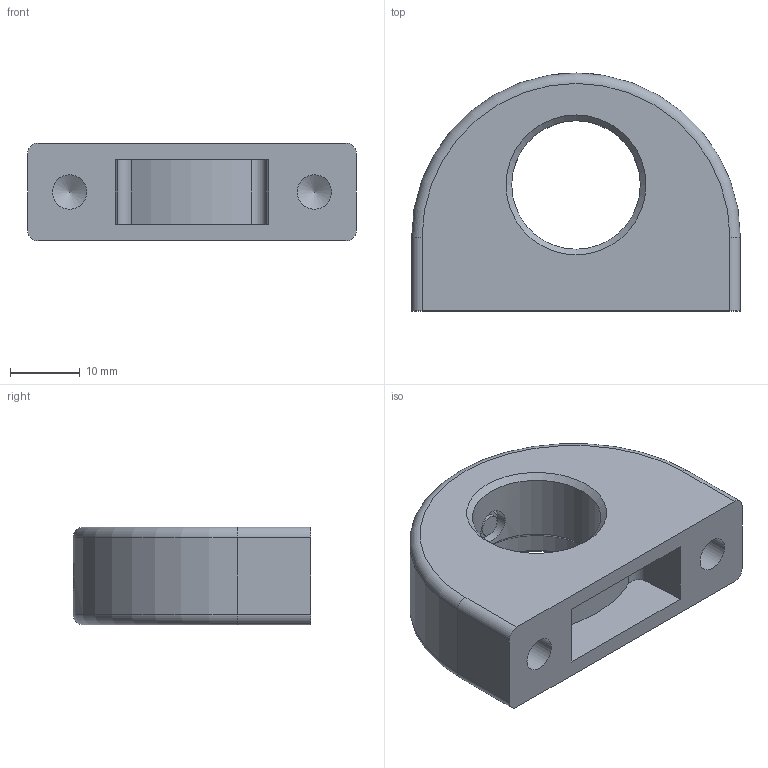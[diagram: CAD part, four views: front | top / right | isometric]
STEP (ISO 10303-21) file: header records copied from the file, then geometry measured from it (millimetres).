
FILE_DESCRIPTION( ( 'STEP AP203' ), '1' );
FILE_NAME( 'C:/Temp/Ganter_Step_05_03_2020/data/3_1/gn412_1/Mounting block GN 412.1-47-M20x1,5-2.stp', '2020-03-12T08:30:56', ( 'License CC BY-ND 4.0' ), ( 'CADENAS' ), ' ', 'PARTsolutions', ' ' );
FILE_SCHEMA( ( 'CONFIG_CONTROL_DESIGN' ) );
Length unit declared in the file: millimetre
Products named in the file (1): _Mounting block GN 412.1-47-M20x1,5-2
Bounding box: 47 x 34 x 14 mm (x, y, z)
Volume: 13038.6 mm3; surface area: 5787.7 mm2
Topology: 1 solids, 1 shells, 43 faces, 96 edges, 60 vertices
Faces by surface type: plane 19, cylinder 15, cone 7, torus 2
Full cylindrical faces by diameter (mm): 3 x1, 4.917 x2, 5 x2, 18.376 x1, 20.2 x1
Entity records: 1272 total; most frequent: CARTESIAN_POINT 304, DIRECTION 200, ORIENTED_EDGE 160, EDGE_CURVE 80, AXIS2_PLACEMENT_3D 78, EDGE_LOOP 64, VERTEX_POINT 60, FACE_OUTER_BOUND 50
